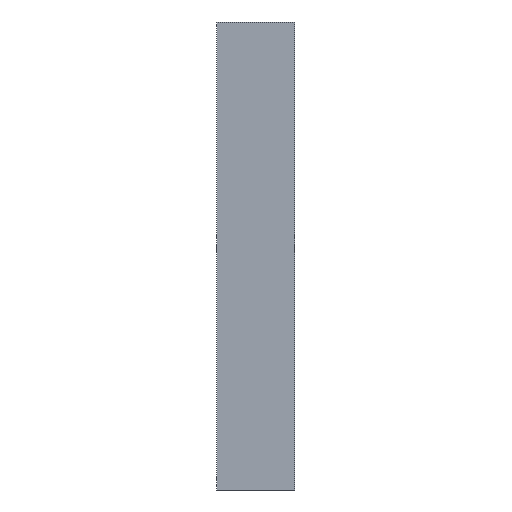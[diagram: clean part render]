
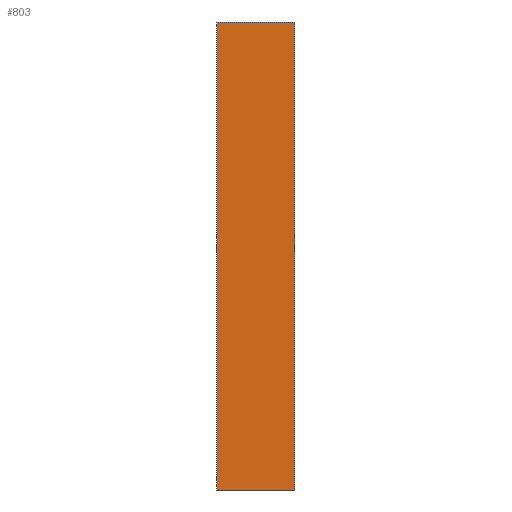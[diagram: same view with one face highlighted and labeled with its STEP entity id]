
A CAD part, front view. The second image highlights one B-rep face of the part: STEP entity #803.
In plain terms, the highlighted planar face has unit normal (0, -1, 0).
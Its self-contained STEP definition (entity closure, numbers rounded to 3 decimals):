
#178 = ORIENTED_EDGE ( 'NONE', *, *, #2336, .T. ) ;
#237 = EDGE_CURVE ( 'NONE', #1865, #2143, #2158, .T. ) ;
#242 = CARTESIAN_POINT ( 'NONE',  ( -250., 0., 1500. ) ) ;
#254 = DIRECTION ( 'NONE',  ( -1., 0., 0. ) ) ;
#393 = AXIS2_PLACEMENT_3D ( 'NONE', #242, #2180, #254 ) ;
#551 = CARTESIAN_POINT ( 'NONE',  ( -250., 0., 1500. ) ) ;
#803 = ADVANCED_FACE ( 'NONE', ( #1793 ), #1216, .F. ) ;
#811 = VECTOR ( 'NONE', #1205, 1000. ) ;
#814 = EDGE_LOOP ( 'NONE', ( #178, #1316, #2381, #1252 ) ) ;
#913 = EDGE_CURVE ( 'NONE', #1865, #2445, #1717, .T. ) ;
#1144 = CARTESIAN_POINT ( 'NONE',  ( -250., 0., -1500. ) ) ;
#1205 = DIRECTION ( 'NONE',  ( 1., 0., 0. ) ) ;
#1216 = PLANE ( 'NONE',  #393 ) ;
#1252 = ORIENTED_EDGE ( 'NONE', *, *, #913, .T. ) ;
#1316 = ORIENTED_EDGE ( 'NONE', *, *, #2279, .F. ) ;
#1369 = VECTOR ( 'NONE', #2295, 1000. ) ;
#1480 = CARTESIAN_POINT ( 'NONE',  ( 250., 0., 1500. ) ) ;
#1494 = LINE ( 'NONE', #1480, #1682 ) ;
#1587 = CARTESIAN_POINT ( 'NONE',  ( -250., 0., 1500. ) ) ;
#1616 = CARTESIAN_POINT ( 'NONE',  ( 250., 0., 1500. ) ) ;
#1682 = VECTOR ( 'NONE', #2218, 1000. ) ;
#1717 = LINE ( 'NONE', #551, #1369 ) ;
#1787 = VERTEX_POINT ( 'NONE', #1958 ) ;
#1793 = FACE_OUTER_BOUND ( 'NONE', #814, .T. ) ;
#1865 = VERTEX_POINT ( 'NONE', #1587 ) ;
#1958 = CARTESIAN_POINT ( 'NONE',  ( 250., 0., -1500. ) ) ;
#2046 = CARTESIAN_POINT ( 'NONE',  ( -250., 0., -1500. ) ) ;
#2143 = VERTEX_POINT ( 'NONE', #1616 ) ;
#2158 = LINE ( 'NONE', #2339, #811 ) ;
#2180 = DIRECTION ( 'NONE',  ( 0., 1., 0. ) ) ;
#2218 = DIRECTION ( 'NONE',  ( 0., 0., -1. ) ) ;
#2272 = DIRECTION ( 'NONE',  ( 1., 0., 0. ) ) ;
#2279 = EDGE_CURVE ( 'NONE', #2143, #1787, #1494, .T. ) ;
#2295 = DIRECTION ( 'NONE',  ( 0., 0., -1. ) ) ;
#2336 = EDGE_CURVE ( 'NONE', #2445, #1787, #2458, .T. ) ;
#2339 = CARTESIAN_POINT ( 'NONE',  ( -250., 0., 1500. ) ) ;
#2352 = VECTOR ( 'NONE', #2272, 1000. ) ;
#2381 = ORIENTED_EDGE ( 'NONE', *, *, #237, .F. ) ;
#2445 = VERTEX_POINT ( 'NONE', #1144 ) ;
#2458 = LINE ( 'NONE', #2046, #2352 ) ;
